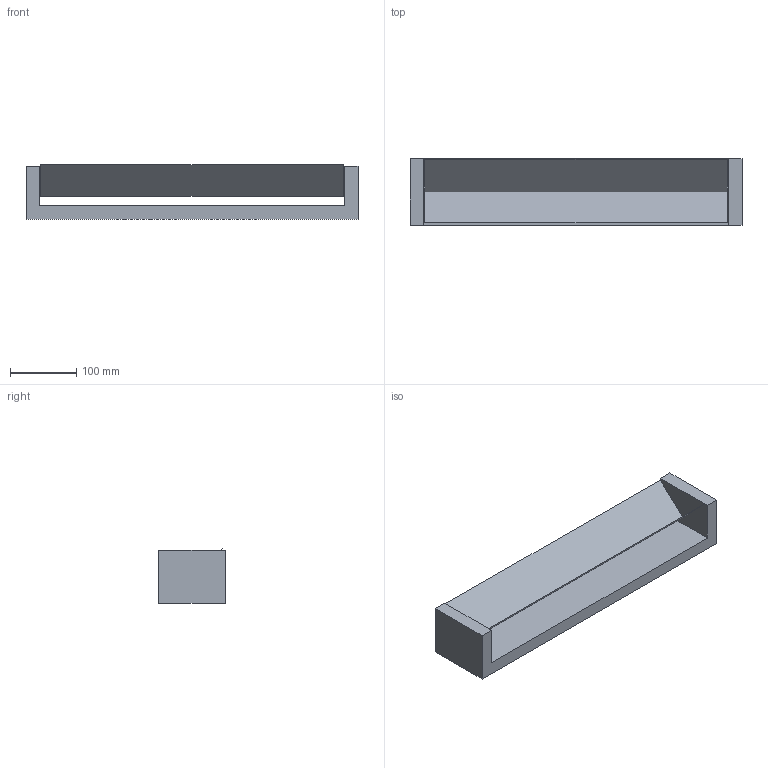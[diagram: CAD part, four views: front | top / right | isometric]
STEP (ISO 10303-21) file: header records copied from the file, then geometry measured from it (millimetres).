
FILE_DESCRIPTION (( 'STEP AP203' ), '1' );
FILE_NAME ('APPEDRO50.STEP', '2025-06-20T08:03:39', ( '' ), ( '' ), 'SwSTEP 2.0', 'SolidWorks 2024', '' );
FILE_SCHEMA (( 'CONFIG_CONTROL_DESIGN' ));
Length unit declared in the file: millimetre
Products named in the file (1): APPEDRO50
Bounding box: 500 x 100 x 81.97 mm (x, y, z)
Surface area: 213045.6 mm2 (no closed solid volume)
Topology: 0 solids, 2 shells, 12 faces, 31 edges, 22 vertices
Faces by surface type: plane 12
Entity records: 437 total; most frequent: CARTESIAN_POINT 66, DIRECTION 57, ORIENTED_EDGE 56, VECTOR 31, LINE 31, EDGE_CURVE 31, VERTEX_POINT 22, AXIS2_PLACEMENT_3D 13
